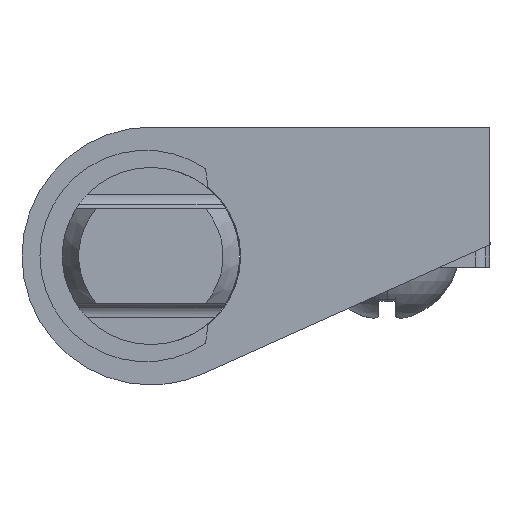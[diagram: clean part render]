
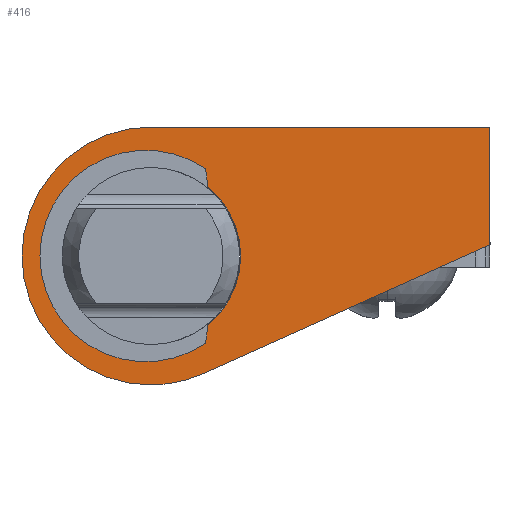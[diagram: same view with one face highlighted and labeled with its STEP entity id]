
A CAD part, left-side view. The second image highlights one B-rep face of the part: STEP entity #416.
In plain terms, the highlighted planar face has unit normal (-1, 0, 0).
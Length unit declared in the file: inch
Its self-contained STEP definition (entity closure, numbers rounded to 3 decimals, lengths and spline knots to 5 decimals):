
#416=ADVANCED_FACE('',(#928,#929),#930,.F.);
#928=FACE_OUTER_BOUND('',#1575,.T.);
#929=FACE_BOUND('',#1576,.T.);
#930=PLANE('',#1577);
#1575=EDGE_LOOP('',(#2601,#2602,#2603,#2604,#2605));
#1576=EDGE_LOOP('',(#2606,#2607));
#1577=AXIS2_PLACEMENT_3D('',#2608,#2609,#2610);
#2601=ORIENTED_EDGE('',*,*,#4090,.T.);
#2602=ORIENTED_EDGE('',*,*,#3915,.T.);
#2603=ORIENTED_EDGE('',*,*,#3870,.T.);
#2604=ORIENTED_EDGE('',*,*,#4091,.T.);
#2605=ORIENTED_EDGE('',*,*,#4092,.T.);
#2606=ORIENTED_EDGE('',*,*,#4093,.T.);
#2607=ORIENTED_EDGE('',*,*,#4059,.T.);
#2608=CARTESIAN_POINT('',(-12.42785,-0.15515,0.02924));
#2609=DIRECTION('',(1.0,0.0,0.));
#2610=DIRECTION('',(0.,0.0,-1.0));
#3870=EDGE_CURVE('',#4682,#4680,#4683,.T.);
#3915=EDGE_CURVE('',#4757,#4682,#4758,.T.);
#4059=EDGE_CURVE('',#4982,#4984,#4986,.T.);
#4090=EDGE_CURVE('',#5028,#4757,#5029,.T.);
#4091=EDGE_CURVE('',#4680,#5030,#5031,.T.);
#4092=EDGE_CURVE('',#5030,#5028,#5032,.T.);
#4093=EDGE_CURVE('',#4984,#4982,#5033,.T.);
#4680=VERTEX_POINT('',#5827);
#4682=VERTEX_POINT('',#5830);
#4683=CIRCLE('',#5831,0.273);
#4757=VERTEX_POINT('',#5941);
#4758=LINE('',#5942,#5943);
#4982=VERTEX_POINT('',#6282);
#4984=VERTEX_POINT('',#6285);
#4986=CIRCLE('',#6288,0.19);
#5028=VERTEX_POINT('',#6341);
#5029=LINE('',#6342,#6343);
#5030=VERTEX_POINT('',#6344);
#5031=CIRCLE('',#6345,0.273);
#5032=LINE('',#6346,#6347);
#5033=CIRCLE('',#6348,0.19);
#5827=CARTESIAN_POINT('',(-12.42785,0.,-0.273));
#5830=CARTESIAN_POINT('',(-12.42785,0.,0.273));
#5831=AXIS2_PLACEMENT_3D('',#7231,#7232,#7233);
#5941=CARTESIAN_POINT('',(-12.42785,-0.718,0.273));
#5942=CARTESIAN_POINT('',(-12.42785,0.,0.273));
#5943=VECTOR('',#7292,0.3937);
#6282=CARTESIAN_POINT('',(-12.42785,0.,0.19));
#6285=CARTESIAN_POINT('',(-12.42785,0.,-0.19));
#6288=AXIS2_PLACEMENT_3D('',#7473,#7474,#7475);
#6341=CARTESIAN_POINT('',(-12.42785,-0.718,0.02362));
#6342=CARTESIAN_POINT('',(-12.42785,-0.718,0.273));
#6343=VECTOR('',#7514,0.3937);
#6344=CARTESIAN_POINT('',(-12.42785,-0.11199,-0.24897));
#6345=AXIS2_PLACEMENT_3D('',#7515,#7516,#7517);
#6346=CARTESIAN_POINT('',(-12.42785,-0.718,0.02362));
#6347=VECTOR('',#7518,0.3937);
#6348=AXIS2_PLACEMENT_3D('',#7519,#7520,#7521);
#7231=CARTESIAN_POINT('',(-12.42785,0.,0.));
#7232=DIRECTION('',(-1.0,-0.0,0.));
#7233=DIRECTION('',(0.,0.0,-1.0));
#7292=DIRECTION('',(0.0,1.0,0.0));
#7473=CARTESIAN_POINT('',(-12.42785,0.,0.));
#7474=DIRECTION('',(1.0,0.0,0.));
#7475=DIRECTION('',(0.,0.0,1.0));
#7514=DIRECTION('',(0.,0.,1.0));
#7515=CARTESIAN_POINT('',(-12.42785,0.,0.));
#7516=DIRECTION('',(-1.0,-0.0,0.));
#7517=DIRECTION('',(0.,0.0,-1.0));
#7518=DIRECTION('',(0.,-0.912,0.41));
#7519=CARTESIAN_POINT('',(-12.42785,0.,0.));
#7520=DIRECTION('',(1.0,0.0,0.));
#7521=DIRECTION('',(0.,0.0,1.0));
